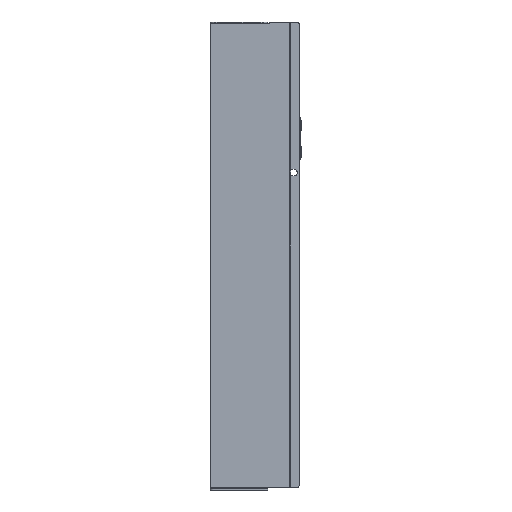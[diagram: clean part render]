
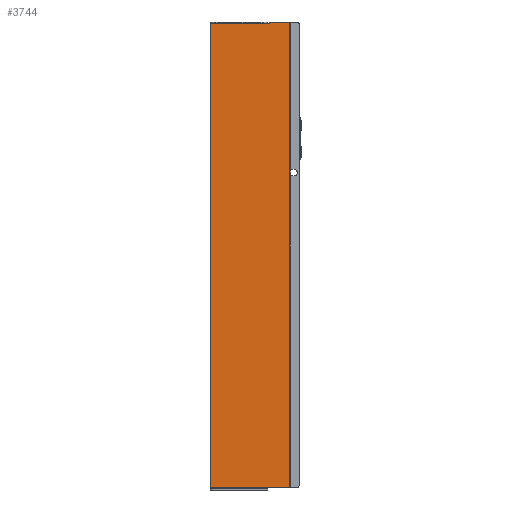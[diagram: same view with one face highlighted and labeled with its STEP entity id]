
A CAD part, left-side view. The second image highlights one B-rep face of the part: STEP entity #3744.
In plain terms, the highlighted planar face has unit normal (-1, 0, 0).
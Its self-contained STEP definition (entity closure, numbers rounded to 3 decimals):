
#33 = CARTESIAN_POINT ( 'NONE',  ( 0., 20.5, 218.8 ) ) ;
#44 = ORIENTED_EDGE ( 'NONE', *, *, #14259, .F. ) ;
#359 = EDGE_CURVE ( 'NONE', #5005, #6893, #6342, .T. ) ;
#390 = ORIENTED_EDGE ( 'NONE', *, *, #8648, .T. ) ;
#523 = AXIS2_PLACEMENT_3D ( 'NONE', #3525, #12183, #4763 ) ;
#811 = CARTESIAN_POINT ( 'NONE',  ( 0., 75., -219. ) ) ;
#2015 = FACE_OUTER_BOUND ( 'NONE', #14504, .T. ) ;
#2158 = DIRECTION ( 'NONE',  ( 0., 0., -1. ) ) ;
#2332 = DIRECTION ( 'NONE',  ( 0., 0., -1. ) ) ;
#2384 = LINE ( 'NONE', #13944, #8593 ) ;
#2444 = LINE ( 'NONE', #4546, #15240 ) ;
#2697 = VECTOR ( 'NONE', #13058, 1000. ) ;
#2907 = EDGE_CURVE ( 'NONE', #8509, #3755, #9567, .T. ) ;
#3000 = VECTOR ( 'NONE', #2158, 1000. ) ;
#3043 = DIRECTION ( 'NONE',  ( 1., 0., 0. ) ) ;
#3066 = VECTOR ( 'NONE', #14498, 1000. ) ;
#3422 = CARTESIAN_POINT ( 'NONE',  ( 0., 20.3, 218.5 ) ) ;
#3525 = CARTESIAN_POINT ( 'NONE',  ( 0., 18.7, 218.7 ) ) ;
#3744 = ADVANCED_FACE ( 'NONE', ( #2015 ), #9779, .T. ) ;
#3755 = VERTEX_POINT ( 'NONE', #7248 ) ;
#3811 = CARTESIAN_POINT ( 'NONE',  ( 0., 0., 220. ) ) ;
#4546 = CARTESIAN_POINT ( 'NONE',  ( 0., 20.5, 218.5 ) ) ;
#4606 = VERTEX_POINT ( 'NONE', #14567 ) ;
#4682 = DIRECTION ( 'NONE',  ( -1., 0., 0. ) ) ;
#4763 = DIRECTION ( 'NONE',  ( 0., 0., -1. ) ) ;
#4798 = ORIENTED_EDGE ( 'NONE', *, *, #15824, .F. ) ;
#5005 = VERTEX_POINT ( 'NONE', #9554 ) ;
#5619 = ORIENTED_EDGE ( 'NONE', *, *, #11171, .F. ) ;
#5655 = CARTESIAN_POINT ( 'NONE',  ( 0., 20.5, -219. ) ) ;
#5661 = VECTOR ( 'NONE', #12154, 1000. ) ;
#5688 = CARTESIAN_POINT ( 'NONE',  ( 0., 0., 220. ) ) ;
#5832 = ORIENTED_EDGE ( 'NONE', *, *, #359, .F. ) ;
#6032 = DIRECTION ( 'NONE',  ( -1., 0., 0. ) ) ;
#6034 = ORIENTED_EDGE ( 'NONE', *, *, #11748, .F. ) ;
#6269 = VERTEX_POINT ( 'NONE', #3422 ) ;
#6342 = LINE ( 'NONE', #33, #3066 ) ;
#6533 = DIRECTION ( 'NONE',  ( 0., 0., -1. ) ) ;
#6893 = VERTEX_POINT ( 'NONE', #11116 ) ;
#7114 = VERTEX_POINT ( 'NONE', #14185 ) ;
#7248 = CARTESIAN_POINT ( 'NONE',  ( 0., 18.5, 218.7 ) ) ;
#7529 = DIRECTION ( 'NONE',  ( 0., 0., 1. ) ) ;
#7646 = VERTEX_POINT ( 'NONE', #811 ) ;
#8157 = LINE ( 'NONE', #3811, #13979 ) ;
#8509 = VERTEX_POINT ( 'NONE', #9856 ) ;
#8593 = VECTOR ( 'NONE', #6533, 1000. ) ;
#8648 = EDGE_CURVE ( 'NONE', #4606, #7646, #2384, .T. ) ;
#9032 = CARTESIAN_POINT ( 'NONE',  ( 0., 18.7, 218.5 ) ) ;
#9276 = LINE ( 'NONE', #5655, #2697 ) ;
#9554 = CARTESIAN_POINT ( 'NONE',  ( 0., 20.5, 218.8 ) ) ;
#9567 = LINE ( 'NONE', #9601, #3000 ) ;
#9601 = CARTESIAN_POINT ( 'NONE',  ( 0., 18.5, 220. ) ) ;
#9624 = CARTESIAN_POINT ( 'NONE',  ( 0., 18.3, 220. ) ) ;
#9779 = PLANE ( 'NONE',  #15820 ) ;
#9856 = CARTESIAN_POINT ( 'NONE',  ( 0., 18.5, 219.8 ) ) ;
#9871 = EDGE_CURVE ( 'NONE', #7114, #10625, #8157, .T. ) ;
#10468 = CARTESIAN_POINT ( 'NONE',  ( 0., 18.3, 219.8 ) ) ;
#10599 = ORIENTED_EDGE ( 'NONE', *, *, #13304, .T. ) ;
#10625 = VERTEX_POINT ( 'NONE', #5688 ) ;
#10736 = DIRECTION ( 'NONE',  ( 0., 1., 0. ) ) ;
#11116 = CARTESIAN_POINT ( 'NONE',  ( 0., 20.5, 218.7 ) ) ;
#11171 = EDGE_CURVE ( 'NONE', #4606, #5005, #12223, .T. ) ;
#11692 = DIRECTION ( 'NONE',  ( 0., 0., -1. ) ) ;
#11748 = EDGE_CURVE ( 'NONE', #12703, #3755, #13719, .T. ) ;
#11881 = EDGE_CURVE ( 'NONE', #7646, #7114, #9276, .T. ) ;
#12053 = CARTESIAN_POINT ( 'NONE',  ( 0., 0., 218.8 ) ) ;
#12109 = CARTESIAN_POINT ( 'NONE',  ( 0., 20.3, 218.7 ) ) ;
#12154 = DIRECTION ( 'NONE',  ( 0., -1., 0. ) ) ;
#12183 = DIRECTION ( 'NONE',  ( -1., 0., 0. ) ) ;
#12223 = LINE ( 'NONE', #12053, #5661 ) ;
#12703 = VERTEX_POINT ( 'NONE', #9032 ) ;
#12911 = VECTOR ( 'NONE', #13306, 1000. ) ;
#12946 = ORIENTED_EDGE ( 'NONE', *, *, #14861, .F. ) ;
#13058 = DIRECTION ( 'NONE',  ( 0., -1., 0. ) ) ;
#13285 = LINE ( 'NONE', #15738, #12911 ) ;
#13304 = EDGE_CURVE ( 'NONE', #12703, #6269, #2444, .T. ) ;
#13305 = AXIS2_PLACEMENT_3D ( 'NONE', #10468, #3043, #11692 ) ;
#13306 = DIRECTION ( 'NONE',  ( 0., -1., 0. ) ) ;
#13341 = DIRECTION ( 'NONE',  ( 0., 0., -1. ) ) ;
#13719 = CIRCLE ( 'NONE', #523, 0.2 ) ;
#13944 = CARTESIAN_POINT ( 'NONE',  ( 0., 75., 220. ) ) ;
#13979 = VECTOR ( 'NONE', #7529, 1000. ) ;
#14185 = CARTESIAN_POINT ( 'NONE',  ( 0., 0., -219. ) ) ;
#14226 = AXIS2_PLACEMENT_3D ( 'NONE', #12109, #4682, #13341 ) ;
#14259 = EDGE_CURVE ( 'NONE', #14868, #10625, #13285, .T. ) ;
#14498 = DIRECTION ( 'NONE',  ( 0., 0., -1. ) ) ;
#14504 = EDGE_LOOP ( 'NONE', ( #14619, #6034, #10599, #12946, #5832, #5619, #390, #15444, #15218, #44, #4798 ) ) ;
#14567 = CARTESIAN_POINT ( 'NONE',  ( 0., 75., 218.8 ) ) ;
#14619 = ORIENTED_EDGE ( 'NONE', *, *, #2907, .T. ) ;
#14861 = EDGE_CURVE ( 'NONE', #6893, #6269, #15016, .T. ) ;
#14868 = VERTEX_POINT ( 'NONE', #9624 ) ;
#14932 = CIRCLE ( 'NONE', #13305, 0.2 ) ;
#15016 = CIRCLE ( 'NONE', #14226, 0.2 ) ;
#15218 = ORIENTED_EDGE ( 'NONE', *, *, #9871, .T. ) ;
#15240 = VECTOR ( 'NONE', #10736, 1000. ) ;
#15444 = ORIENTED_EDGE ( 'NONE', *, *, #11881, .T. ) ;
#15738 = CARTESIAN_POINT ( 'NONE',  ( 0., 0., 220. ) ) ;
#15820 = AXIS2_PLACEMENT_3D ( 'NONE', #15924, #6032, #2332 ) ;
#15824 = EDGE_CURVE ( 'NONE', #8509, #14868, #14932, .T. ) ;
#15924 = CARTESIAN_POINT ( 'NONE',  ( 0., 0., 220. ) ) ;
